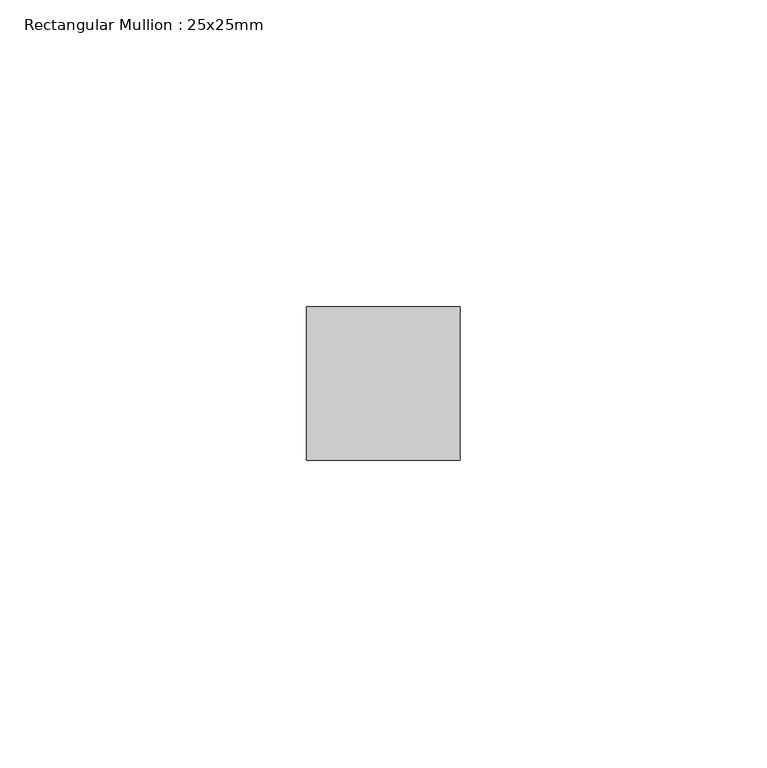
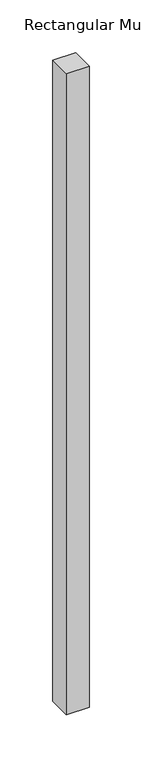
"""IFC4 building model written with IfcOpenShell, lengths in millimetres: member geometry, Rectangular Mullion : 25x25mm."""

import ifcopenshell
import ifcopenshell.guid

model = None  # the IFC model being written
_history = None  # IfcOwnerHistory: only IFC2X3 demands one
_inside = {}  # id of a spatial element -> (the spatial element, [elements in it])
_under = {}  # id of a project, library or spatial element -> (it, [spatial elements below it])
_declared = {}  # id of a project -> (the project, [libraries it declares])
_typed = {}  # id of a type object -> (the type object, [elements of that type])
_made_of = {}  # id of a material, layer set ... -> (it, [elements and type objects made of it])


def new_model(schema):
    """Start an empty IFC model of exactly this schema.

    Asked for "IFC4X3", IfcOpenShell would pick the latest addendum, in which some entities
    have other attributes; the version numbers below select the first issue.
    IFC2X3 requires an IfcOwnerHistory on every rooted entity: one is made here for all.
    """
    global model, _history
    if schema == "IFC4X3":
        model = ifcopenshell.file(schema_version=(4, 3, 0, 0))
    else:
        model = ifcopenshell.file(schema=schema)
    _inside.clear()
    _under.clear()
    _declared.clear()
    _typed.clear()
    _made_of.clear()
    _history = None
    if model.schema == "IFC2X3":
        org = make("IfcOrganization", Name="unknown")
        user = make(
            "IfcPersonAndOrganization",
            ThePerson=make("IfcPerson", FamilyName="unknown"),
            TheOrganization=org,
        )
        app = make(
            "IfcApplication",
            ApplicationDeveloper=org,
            Version="unknown",
            ApplicationFullName="unknown",
            ApplicationIdentifier="unknown",
        )
        _history = make(
            "IfcOwnerHistory",
            OwningUser=user,
            OwningApplication=app,
            ChangeAction="ADDED",
            CreationDate=0,
        )
    return model


def make(cls, **values):
    """One entity of the class cls with the attributes given. An attribute that is None is left unset."""
    return model.create_entity(
        cls, **{name: value for name, value in values.items() if value is not None}
    )


def rooted(cls, **values):
    """An entity with a GlobalId (a new one), such as an element, a storey or a relation."""
    return make(cls, GlobalId=ifcopenshell.guid.new(), OwnerHistory=_history, **values)


def si_unit(unit_type, name, prefix=None):
    """IfcSIUnit, for example si_unit("LENGTHUNIT", "METRE", prefix="MILLI")."""
    return make("IfcSIUnit", UnitType=unit_type, Prefix=prefix, Name=name)


def assignment(units):
    """IfcUnitAssignment: the units of a project."""
    return None if units is None else make("IfcUnitAssignment", Units=units)


def point(xyz):
    """IfcCartesianPoint."""
    return None if xyz is None else make("IfcCartesianPoint", Coordinates=xyz)


def direction(xyz):
    """IfcDirection."""
    return None if xyz is None else make("IfcDirection", DirectionRatios=xyz)


def frame(location, z_axis=None, x_axis=None):
    """IfcAxis2Placement3D, a coordinate frame: its origin and axes. An axis left out is left unset."""
    return make(
        "IfcAxis2Placement3D",
        Location=point(location),
        Axis=direction(z_axis),
        RefDirection=direction(x_axis),
    )


def origin():
    """The frame at (0, 0, 0) with its axes left unset."""
    return frame((0.0, 0.0, 0.0))


def place(relative_to, where):
    """IfcLocalPlacement: puts the frame where relative to a parent placement (None: the world)."""
    return make(
        "IfcLocalPlacement", PlacementRelTo=relative_to, RelativePlacement=where
    )


def context(
    kind, dimensions, precision=None, world=None, true_north=None, identifier=None
):
    """IfcGeometricRepresentationContext, for example the 3D "Model" context."""
    return make(
        "IfcGeometricRepresentationContext",
        ContextIdentifier=identifier,
        ContextType=kind,
        CoordinateSpaceDimension=dimensions,
        Precision=precision,
        WorldCoordinateSystem=world,
        TrueNorth=true_north,
    )


def project(units=None, contexts=None):
    """IfcProject with its units and contexts."""
    return rooted(
        "IfcProject",
        Name="project",
        RepresentationContexts=contexts,
        UnitsInContext=assignment(units),
    )


def spatial(cls, under=None, at=None, **own):
    """A site, building, storey or space (cls), placed at a placement, below another one or the project."""
    s = rooted(cls, ObjectPlacement=at, **own)
    if under is not None:
        _under.setdefault(under.id(), (under, []))[1].append(s)
    return s


def polyline(points):
    """IfcPolyline through the points."""
    return make("IfcPolyline", Points=[point(p) for p in points])


def outline(outer, holes=None, kind="AREA"):
    """IfcArbitraryClosedProfileDef: a profile drawn as a closed curve; with holes, ...WithVoids."""
    if holes is None:
        return make("IfcArbitraryClosedProfileDef", ProfileType=kind, OuterCurve=outer)
    return make(
        "IfcArbitraryProfileDefWithVoids",
        ProfileType=kind,
        OuterCurve=outer,
        InnerCurves=holes,
    )


def extrude(swept, where, along, depth):
    """IfcExtrudedAreaSolid: the profile swept, set in the frame where, extruded along a direction by depth."""
    return make(
        "IfcExtrudedAreaSolid",
        SweptArea=swept,
        Position=where,
        ExtrudedDirection=direction(along),
        Depth=depth,
    )


def shape(context_of_items, identifier, shape_type, items):
    """IfcShapeRepresentation: the items that make up one representation, for example the "Body"."""
    return make(
        "IfcShapeRepresentation",
        ContextOfItems=context_of_items,
        RepresentationIdentifier=identifier,
        RepresentationType=shape_type,
        Items=items,
    )


def source(mapping_origin, context_of_items, identifier, shape_type, items):
    """IfcRepresentationMap: a shape defined once, which mapped items show again and again."""
    return make(
        "IfcRepresentationMap",
        MappingOrigin=mapping_origin,
        MappedRepresentation=shape(context_of_items, identifier, shape_type, items),
    )


def transform(
    local_origin,
    x_axis=None,
    y_axis=None,
    z_axis=None,
    scale=None,
    scale2=None,
    scale3=None,
    uniform=True,
):
    """IfcCartesianTransformationOperator3D, or its non-uniform kind. x_axis, y_axis, z_axis: its Axis1, 2, 3."""
    if uniform:
        return make(
            "IfcCartesianTransformationOperator3D",
            Axis1=direction(x_axis),
            Axis2=direction(y_axis),
            LocalOrigin=point(local_origin),
            Scale=scale,
            Axis3=direction(z_axis),
        )
    return make(
        "IfcCartesianTransformationOperator3DnonUniform",
        Axis1=direction(x_axis),
        Axis2=direction(y_axis),
        LocalOrigin=point(local_origin),
        Scale=scale,
        Axis3=direction(z_axis),
        Scale2=scale2,
        Scale3=scale3,
    )


def mapped(mapping_source, mapping_target):
    """IfcMappedItem: shows the shape of a source again, moved by a transform."""
    return make(
        "IfcMappedItem", MappingSource=mapping_source, MappingTarget=mapping_target
    )


def made_of(thing, what):
    """Note that an element or type object is made of a material, layer set ...; save() writes the relation."""
    if what is not None:
        _made_of.setdefault(what.id(), (what, []))[1].append(thing)
    return thing


def element(
    cls,
    number,
    at=None,
    inside=None,
    cuts=None,
    type_object=None,
    material=None,
    context=None,
    identifier="Body",
    shape_type=None,
    held_by="IfcProductDefinitionShape",
    body=None,
    shapes=None,
    **own,
):
    """One element of the class cls, such as IfcWall. Its Tag is "e" and its number.

    at: its placement. inside: the storey or other place that contains it. cuts: it is an
    opening in that element (IfcRelVoidsElement). A single representation is given by context,
    identifier, shape_type and body (its items); several are given by shapes. held_by: the class
    of the entity that holds the representations. save() writes the other relations.
    """
    e = rooted(cls, Tag="e%d" % number, ObjectPlacement=at, **own)
    if body is not None:
        shapes = [shape(context, identifier, shape_type, body)]
    if shapes is not None:
        e.Representation = make(held_by, Representations=shapes)
    if inside is not None:
        _inside.setdefault(inside.id(), (inside, []))[1].append(e)
    if cuts is not None:
        rooted(
            "IfcRelVoidsElement", RelatingBuildingElement=cuts, RelatedOpeningElement=e
        )
    if type_object is not None:
        _typed.setdefault(type_object.id(), (type_object, []))[1].append(e)
    return made_of(e, material)


def aggregate(whole, parts):
    """IfcRelAggregates: a whole, such as a stair, and the parts it consists of."""
    return rooted("IfcRelAggregates", RelatingObject=whole, RelatedObjects=parts)


def save(model, path):
    """Write the relations noted so far, then the file.

    IfcRelAggregates (storeys below a building ...), IfcRelContainedInSpatialStructure (elements
    in a storey), IfcRelDefinesByType, IfcRelAssociatesMaterial and IfcRelDeclares: one each for
    every whole, place, type object, material and project.
    """
    for whole, parts in _under.values():
        aggregate(whole, parts)
    for where, things in _inside.values():
        rooted(
            "IfcRelContainedInSpatialStructure",
            RelatedElements=things,
            RelatingStructure=where,
        )
    for kind, things in _typed.values():
        rooted("IfcRelDefinesByType", RelatedObjects=things, RelatingType=kind)
    for what, things in _made_of.values():
        rooted("IfcRelAssociatesMaterial", RelatedObjects=things, RelatingMaterial=what)
    for by, libraries in _declared.values():
        rooted("IfcRelDeclares", RelatingContext=by, RelatedDefinitions=libraries)
    model.write(path)


def rectangular_mullion_25x25mm_74ef4bd3(model_context):
    return source(origin(), model_context, "Body", "SweptSolid", [
        extrude(outline(polyline([(0.0, 0.5), (0.0, -24.5), (-25.0, -24.5), (-25.0, 0.5), (0.0, 0.5)])), frame((0.0, 0.0, -740.0000001), z_axis=(0.0, 0.0, 1.0), x_axis=(1.0, 0.0, 0.0)), (0.0, 0.0, 1.0), 740.0000001),
    ])


if __name__ == "__main__":
    model = new_model("IFC4")
    model_context = context("Model", 3, world=origin())
    ifc_project = project(units=[si_unit("LENGTHUNIT", "METRE", prefix="MILLI")], contexts=[model_context])
    site = spatial("IfcSite", under=ifc_project)
    building = spatial("IfcBuilding", under=site)
    placement = place(None, origin())
    rectangular_mullion_25x25mm_shape = rectangular_mullion_25x25mm_74ef4bd3(model_context)
    element("IfcMember", 1, ObjectType="Rectangular Mullion : 25x25mm", at=placement, inside=building, context=model_context, shape_type="MappedRepresentation", body=[
        mapped(rectangular_mullion_25x25mm_shape, transform((0.0, 0.0, 0.0), x_axis=(1.0, 0.0, 0.0), y_axis=(0.0, 1.0, 0.0), z_axis=(0.0, 0.0, 1.0))),
    ])
    save(model, "model.ifc")
